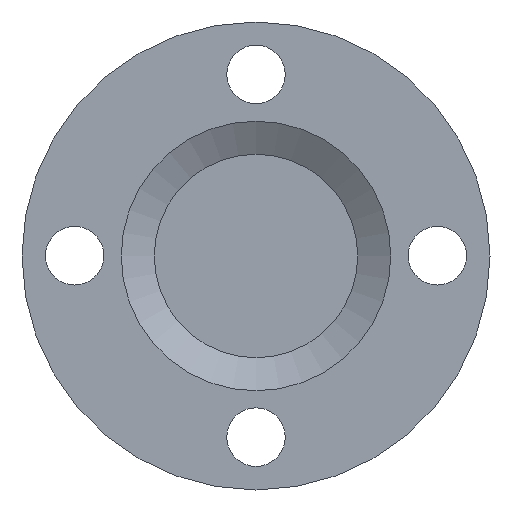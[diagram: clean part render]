
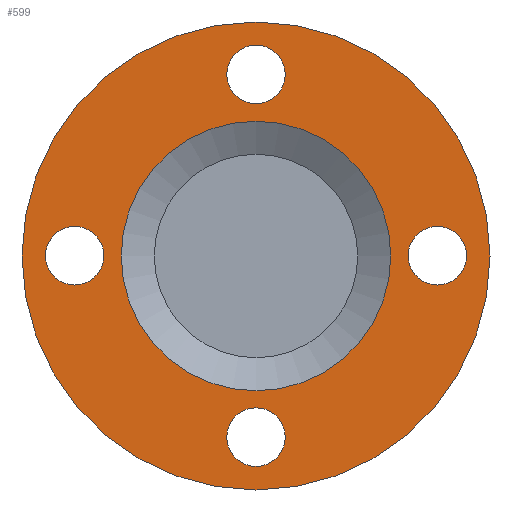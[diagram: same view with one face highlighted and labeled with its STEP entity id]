
A CAD part, left-side view. The second image highlights one B-rep face of the part: STEP entity #599.
In plain terms, the highlighted planar face has unit normal (-1, 0, 0).
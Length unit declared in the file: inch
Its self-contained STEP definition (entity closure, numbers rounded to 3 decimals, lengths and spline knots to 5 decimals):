
#599 = ADVANCED_FACE( '', ( #1528, #1529, #1530, #1531, #1532, #1533 ), #1534, .F. );
#1528 = FACE_BOUND( '', #3357, .T. );
#1529 = FACE_BOUND( '', #3358, .T. );
#1530 = FACE_BOUND( '', #3359, .T. );
#1531 = FACE_OUTER_BOUND( '', #3360, .T. );
#1532 = FACE_BOUND( '', #3361, .T. );
#1533 = FACE_BOUND( '', #3362, .T. );
#1534 = PLANE( '', #3363 );
#3357 = EDGE_LOOP( '', ( #8640 ) );
#3358 = EDGE_LOOP( '', ( #8641 ) );
#3359 = EDGE_LOOP( '', ( #8642 ) );
#3360 = EDGE_LOOP( '', ( #8643 ) );
#3361 = EDGE_LOOP( '', ( #8644 ) );
#3362 = EDGE_LOOP( '', ( #8645 ) );
#3363 = AXIS2_PLACEMENT_3D( '', #8646, #8647, #8648 );
#8640 = ORIENTED_EDGE( '', *, *, #11848, .T. );
#8641 = ORIENTED_EDGE( '', *, *, #11849, .T. );
#8642 = ORIENTED_EDGE( '', *, *, #11850, .F. );
#8643 = ORIENTED_EDGE( '', *, *, #11851, .T. );
#8644 = ORIENTED_EDGE( '', *, *, #11696, .T. );
#8645 = ORIENTED_EDGE( '', *, *, #11852, .T. );
#8646 = CARTESIAN_POINT( '', ( 0.063, 0., 2.4975 ) );
#8647 = DIRECTION( '', ( 1., 0., 0. ) );
#8648 = DIRECTION( '', ( 0., 0., -1. ) );
#11696 = EDGE_CURVE( '', #13332, #13332, #13333, .T. );
#11848 = EDGE_CURVE( '', #13590, #13590, #13591, .T. );
#11849 = EDGE_CURVE( '', #13592, #13592, #13593, .T. );
#11850 = EDGE_CURVE( '', #13594, #13594, #13595, .T. );
#11851 = EDGE_CURVE( '', #13596, #13596, #13597, .T. );
#11852 = EDGE_CURVE( '', #13598, #13598, #13599, .T. );
#13332 = VERTEX_POINT( '', #16103 );
#13333 = CIRCLE( '', #16104, 0.3125 );
#13590 = VERTEX_POINT( '', #16743 );
#13591 = CIRCLE( '', #16744, 0.3125 );
#13592 = VERTEX_POINT( '', #16745 );
#13593 = CIRCLE( '', #16746, 0.3125 );
#13594 = VERTEX_POINT( '', #16747 );
#13595 = CIRCLE( '', #16748, 1.44 );
#13596 = VERTEX_POINT( '', #16749 );
#13597 = CIRCLE( '', #16750, 2.5 );
#13598 = VERTEX_POINT( '', #16751 );
#13599 = CIRCLE( '', #16752, 0.3125 );
#16103 = CARTESIAN_POINT( '', ( 0.063, -1.9375, -0.3125 ) );
#16104 = AXIS2_PLACEMENT_3D( '', #21391, #21392, #21393 );
#16743 = CARTESIAN_POINT( '', ( 0.063, 0.3125, -1.9375 ) );
#16744 = AXIS2_PLACEMENT_3D( '', #21403, #21404, #21405 );
#16745 = CARTESIAN_POINT( '', ( 0.063, -0.3125, 1.9375 ) );
#16746 = AXIS2_PLACEMENT_3D( '', #21406, #21407, #21408 );
#16747 = CARTESIAN_POINT( '', ( 0.063, 0., 1.4375 ) );
#16748 = AXIS2_PLACEMENT_3D( '', #21409, #21410, #21411 );
#16749 = CARTESIAN_POINT( '', ( 0.063, 0., 2.4975 ) );
#16750 = AXIS2_PLACEMENT_3D( '', #21412, #21413, #21414 );
#16751 = CARTESIAN_POINT( '', ( 0.063, 1.9375, 0.3125 ) );
#16752 = AXIS2_PLACEMENT_3D( '', #21415, #21416, #21417 );
#21391 = CARTESIAN_POINT( '', ( 0.063, -1.9375, 0. ) );
#21392 = DIRECTION( '', ( 1., 0., 0. ) );
#21393 = DIRECTION( '', ( 0., 0., -1. ) );
#21403 = CARTESIAN_POINT( '', ( 0.063, 0., -1.9375 ) );
#21404 = DIRECTION( '', ( 1., 0., 0. ) );
#21405 = DIRECTION( '', ( 0., 1., 0. ) );
#21406 = CARTESIAN_POINT( '', ( 0.063, 0., 1.9375 ) );
#21407 = DIRECTION( '', ( 1., 0., 0. ) );
#21408 = DIRECTION( '', ( 0., -1., 0. ) );
#21409 = CARTESIAN_POINT( '', ( 0.063, 0., -0.0025 ) );
#21410 = DIRECTION( '', ( -1., 0., 0. ) );
#21411 = DIRECTION( '', ( 0., 0., 1. ) );
#21412 = CARTESIAN_POINT( '', ( 0.063, 0., -0.0025 ) );
#21413 = DIRECTION( '', ( -1., 0., 0. ) );
#21414 = DIRECTION( '', ( 0., 0., 1. ) );
#21415 = CARTESIAN_POINT( '', ( 0.063, 1.9375, 0. ) );
#21416 = DIRECTION( '', ( 1., 0., 0. ) );
#21417 = DIRECTION( '', ( 0., 0., 1. ) );
